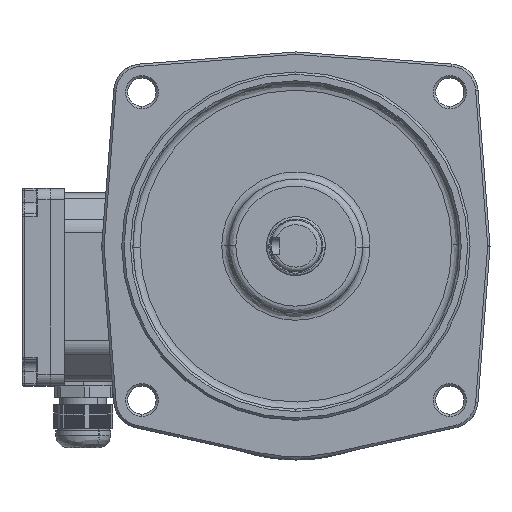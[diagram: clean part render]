
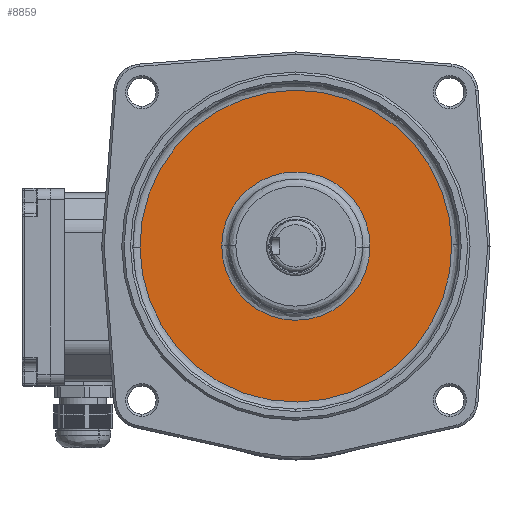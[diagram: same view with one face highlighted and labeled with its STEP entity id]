
A CAD part, top view. The second image highlights one B-rep face of the part: STEP entity #8859.
In plain terms, the highlighted planar face has unit normal (0, 0, 1) as drawn and (0, -1, 0) by its records, which use the part's own axes.
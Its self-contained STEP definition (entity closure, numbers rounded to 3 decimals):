
#3806 = AXIS2_PLACEMENT_3D ( 'NONE', #19903, #19904, #19905 ) ;
#3825 = AXIS2_PLACEMENT_3D ( 'NONE', #20037, #20038, #20039 ) ;
#8859 = ADVANCED_FACE ( 'NONE', ( #82222, #82220 ), #92766, .T. ) ;
#17111 = ORIENTED_EDGE ( 'NONE', *, *, #17959, .F. ) ;
#17112 = ORIENTED_EDGE ( 'NONE', *, *, #21751, .F. ) ;
#17113 = ORIENTED_EDGE ( 'NONE', *, *, #18705, .F. ) ;
#17114 = ORIENTED_EDGE ( 'NONE', *, *, #17986, .F. ) ;
#17959 = EDGE_CURVE ( 'NONE', #26779, #26815, #61192, .T. ) ;
#17986 = EDGE_CURVE ( 'NONE', #27349, #27373, #61201, .T. ) ;
#18705 = EDGE_CURVE ( 'NONE', #27373, #27349, #33862, .T. ) ;
#19903 = CARTESIAN_POINT ( 'NONE',  ( 0., 1., 0. ) ) ;
#19904 = DIRECTION ( 'NONE',  ( 0., -1., 0. ) ) ;
#19905 = DIRECTION ( 'NONE',  ( 1., 0., 0. ) ) ;
#20037 = CARTESIAN_POINT ( 'NONE',  ( 0., 1., 0. ) ) ;
#20038 = DIRECTION ( 'NONE',  ( 0., 1., 0. ) ) ;
#20039 = DIRECTION ( 'NONE',  ( -1., 0., 0. ) ) ;
#21751 = EDGE_CURVE ( 'NONE', #26815, #26779, #34331, .T. ) ;
#25418 = AXIS2_PLACEMENT_3D ( 'NONE', #28791, #28792, #28793 ) ;
#26779 = VERTEX_POINT ( 'NONE', #54159 ) ;
#26815 = VERTEX_POINT ( 'NONE', #54178 ) ;
#27349 = VERTEX_POINT ( 'NONE', #54388 ) ;
#27373 = VERTEX_POINT ( 'NONE', #54397 ) ;
#28791 = CARTESIAN_POINT ( 'NONE',  ( 0., 1., 0. ) ) ;
#28792 = DIRECTION ( 'NONE',  ( 0., 1., 0. ) ) ;
#28793 = DIRECTION ( 'NONE',  ( -1., 0., 0. ) ) ;
#33862 = CIRCLE ( 'NONE', #25418, 66.25 ) ;
#34331 = CIRCLE ( 'NONE', #48983, 31.5 ) ;
#48064 = CARTESIAN_POINT ( 'NONE',  ( 0., 1., 0. ) ) ;
#48065 = DIRECTION ( 'NONE',  ( 0., -1., 0. ) ) ;
#48066 = DIRECTION ( 'NONE',  ( 1., 0., 0. ) ) ;
#48983 = AXIS2_PLACEMENT_3D ( 'NONE', #48064, #48065, #48066 ) ;
#54159 = CARTESIAN_POINT ( 'NONE',  ( 31.497, 1., -0.463 ) ) ;
#54178 = CARTESIAN_POINT ( 'NONE',  ( -31.497, 1., 0.463 ) ) ;
#54388 = CARTESIAN_POINT ( 'NONE',  ( -66.248, 1., -0.569 ) ) ;
#54397 = CARTESIAN_POINT ( 'NONE',  ( 66.248, 1., 0.569 ) ) ;
#61192 = CIRCLE ( 'NONE', #3806, 31.5 ) ;
#61201 = CIRCLE ( 'NONE', #3825, 66.25 ) ;
#82220 = FACE_OUTER_BOUND ( 'NONE', #104497, .T. ) ;
#82222 = FACE_BOUND ( 'NONE', #85712, .T. ) ;
#82226 = AXIS2_PLACEMENT_3D ( 'NONE', #92767, #92768, #92769 ) ;
#85712 = EDGE_LOOP ( 'NONE', ( #17111, #17112 ) ) ;
#92766 = PLANE ( 'NONE',  #82226 ) ;
#92767 = CARTESIAN_POINT ( 'NONE',  ( 0., 1., 0. ) ) ;
#92768 = DIRECTION ( 'NONE',  ( 0., -1., 0. ) ) ;
#92769 = DIRECTION ( 'NONE',  ( 0., 0., -1. ) ) ;
#104497 = EDGE_LOOP ( 'NONE', ( #17113, #17114 ) ) ;
